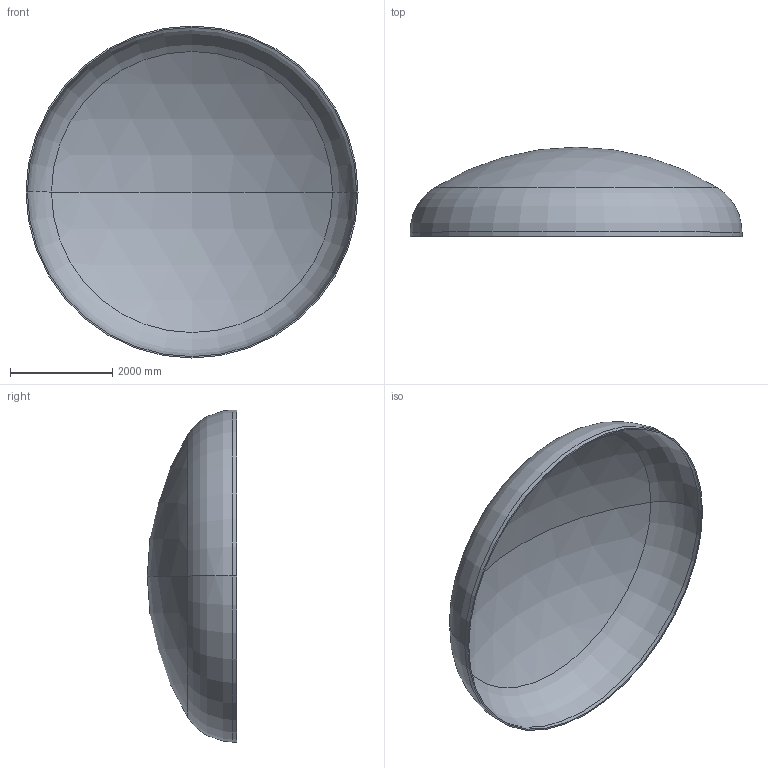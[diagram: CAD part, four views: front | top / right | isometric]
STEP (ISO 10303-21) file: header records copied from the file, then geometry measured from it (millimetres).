
FILE_DESCRIPTION (( 'STEP AP203' ), '1' );
FILE_NAME ('DIN 28013 Korbbogenform_-_Boden DIN 28013 - 6500 x 85 - I - s=27.step', '2016-07-04T10:40:54', ( '' ), ( '' ), 'SwSTEP 2.0', 'SolidWorks 2013', '' );
FILE_SCHEMA (( 'CONFIG_CONTROL_DESIGN' ));
Length unit declared in the file: millimetre
Products named in the file (1): DIN 28013 Korbbogenform_-_Boden DIN 28013 - 6500 x 85 - I - s=27
Bounding box: 6500 x 1748.54 x 6500 mm (x, y, z)
Volume: 1280562712.6 mm3; surface area: 95407045.3 mm2
Topology: 1 solids, 1 shells, 13 faces, 24 edges, 14 vertices
Faces by surface type: torus 4, cylinder 4, sphere 4, plane 1
Entity records: 407 total; most frequent: DIRECTION 72, CARTESIAN_POINT 52, ORIENTED_EDGE 48, AXIS2_PLACEMENT_3D 34, EDGE_CURVE 24, CIRCLE 20, EDGE_LOOP 14, VERTEX_POINT 14
